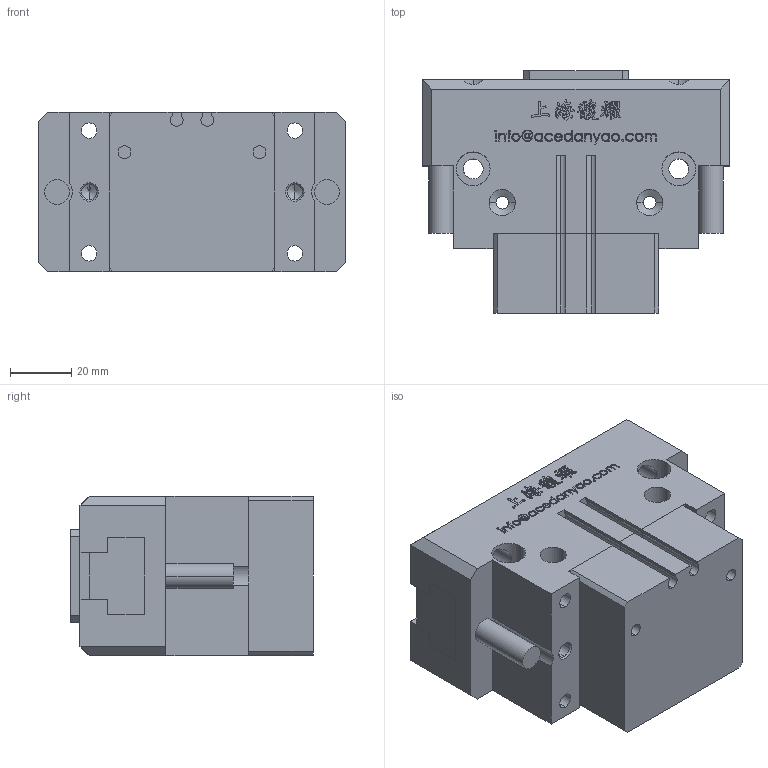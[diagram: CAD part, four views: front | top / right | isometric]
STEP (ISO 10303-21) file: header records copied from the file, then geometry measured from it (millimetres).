
FILE_DESCRIPTION (( 'STEP AP203' ), '1' );
FILE_NAME ('OPP2-100-C1-MC&MA-原始檔-組合-W106.04.19.STEP', '2017-04-19T01:57:57', ( 'DanyaoCAD' ), ( '' ), 'SwSTEP 2.0', 'SolidWorks 2016', '' );
FILE_SCHEMA (( 'CONFIG_CONTROL_DESIGN' ));
Length unit declared in the file: millimetre
Products named in the file (5): Griffa; Corpo; OPP2-100-C1-MC&MA-原始檔-組合-W106.04.19; Coperchio; Fondello
Assembly tree (5 placements, depth 2):
  OPP2-100-C1-MC&MA-原始檔-組合-W106.04.19
    Coperchio
    Fondello
    Griffa  x2
    Corpo
Bounding box: 100 x 79 x 52 mm (x, y, z)
Volume: 289401.2 mm3; surface area: 66254.8 mm2
Topology: 5 solids, 5 shells, 1045 faces, 2895 edges, 1906 vertices
Faces by surface type: bspline 640, plane 262, cylinder 103, cone 40
Entity records: 49583 total; most frequent: CARTESIAN_POINT 27383, ORIENTED_EDGE 5612, EDGE_CURVE 2806, DIRECTION 2456, VERTEX_POINT 1858, B_SPLINE_CURVE_WITH_KNOTS 1304, LINE 1298, VECTOR 1298
